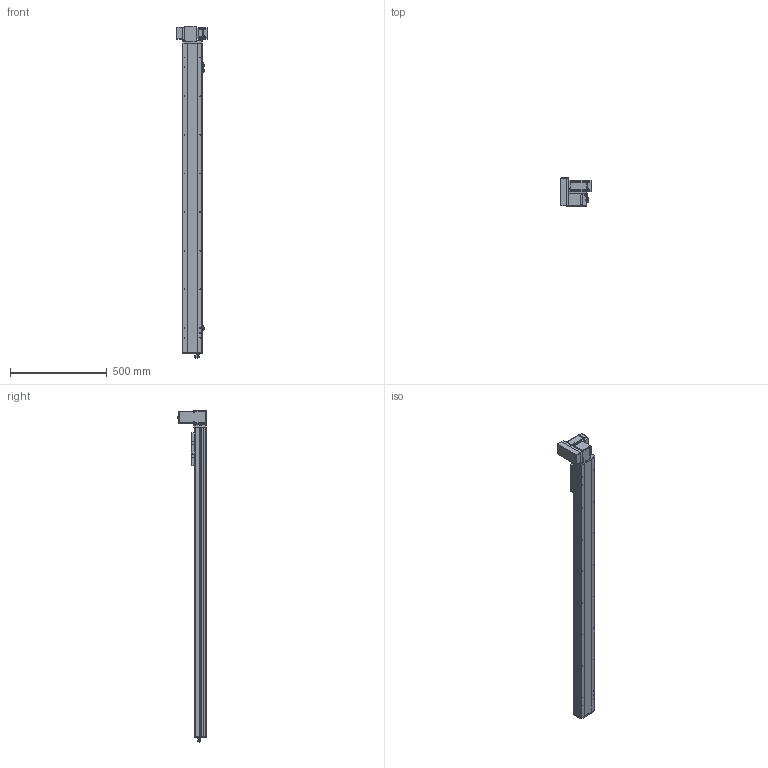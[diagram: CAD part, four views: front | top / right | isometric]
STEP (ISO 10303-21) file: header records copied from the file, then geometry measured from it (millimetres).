
FILE_DESCRIPTION (( 'STEP AP214' ), '1' );
FILE_NAME ('TPE10-L41.6-1350-LU-P20-C4.STEP', '2023-03-13T01:33:34', ( '' ), ( '' ), 'SwSTEP 2.0', 'SolidWorks 2020', '' );
FILE_SCHEMA (( 'AUTOMOTIVE_DESIGN' ));
Length unit declared in the file: millimetre
Products named in the file (16): hexagon socket head cap screws gb_GB_FASTENER_SCREWS_HSHCS M3X6-N; 葩璃 TPE10-007 々湍釱MZ-169x88^TPE10-L41.6-LU-P20-C4; 葩璃 TPF10-L-008 耜醱啣^TPE10-L41.6-LU-P20-C4; 葩璃 侂狟100W^TPE10-L41.6-LU-P20-C4; 葩璃 TPF10 詩湍揤啣 TPF10 12^TPE10-L41.6-LU-P20-C4; 葩璃 TPT10-L-009 萇儂啣^TPE10-L41.6-LU-P20-C4_200W; 葩璃 PL8-02^TPE10-L41.6-LU-P20-C4; 葩璃 TPE10-L-001 菁釱MZ-102A-01^TPE10-L41.6-LU-P20-C4; hex nuts, style 1-grades ab gb_GB_FASTENER_NUT_SNAB1 M3-N; 葩璃 詩湍75^TPE10-L41.6-LU-P20-C4; 葩璃 TPE10-L-002 耜裔ZTMT-102B-04^TPE10-L41.6-LU-P20-C4; hexagon head bolts-full thread gb_GB_FASTENER_BOLT_STBAB A M5X16-N; 葩璃 TPE10 賑雄殤 TPE10^TPE10-L41.6-LU-P20-C4; 葩璃 pm-t65-672^TPE10-L41.6-LU-P20-C4; 葩璃 侂狟400W^TPE10-L41.6-LU-P20-C4; TPE10-L41.6-1350-LU-P20-C4
Assembly tree (29 placements, depth 2):
  TPE10-L41.6-1350-LU-P20-C4
    葩璃 TPE10-L-001 菁釱MZ-102A-01^TPE10-L41.6-LU-P20-C4
    葩璃 TPE10-L-002 耜裔ZTMT-102B-04^TPE10-L41.6-LU-P20-C4  x2
    葩璃 詩湍75^TPE10-L41.6-LU-P20-C4
    葩璃 TPE10-007 々湍釱MZ-169x88^TPE10-L41.6-LU-P20-C4
    葩璃 TPF10-L-008 耜醱啣^TPE10-L41.6-LU-P20-C4
    葩璃 TPE10 賑雄殤 TPE10^TPE10-L41.6-LU-P20-C4
    葩璃 TPF10 詩湍揤啣 TPF10 12^TPE10-L41.6-LU-P20-C4  x2
    葩璃 TPT10-L-009 萇儂啣^TPE10-L41.6-LU-P20-C4_200W
    葩璃 pm-t65-672^TPE10-L41.6-LU-P20-C4  x3
    葩璃 PL8-02^TPE10-L41.6-LU-P20-C4
    葩璃 侂狟100W^TPE10-L41.6-LU-P20-C4
    葩璃 侂狟400W^TPE10-L41.6-LU-P20-C4
    hexagon socket head cap screws gb_GB_FASTENER_SCREWS_HSHCS M3X6-N  x6
    hex nuts, style 1-grades ab gb_GB_FASTENER_NUT_SNAB1 M3-N  x6
    hexagon head bolts-full thread gb_GB_FASTENER_BOLT_STBAB A M5X16-N
Bounding box: 162.5 x 149.65 x 1718.35 mm (x, y, z)
Volume: 5708415.2 mm3; surface area: 1402991.6 mm2
Topology: 37 solids, 37 shells, 2053 faces, 5261 edges, 3334 vertices
Faces by surface type: plane 1106, cylinder 649, cone 228, bspline 42, torus 26, sphere 2
Entity records: 51468 total; most frequent: CARTESIAN_POINT 10588, DIRECTION 8264, ORIENTED_EDGE 7938, EDGE_CURVE 3969, AXIS2_PLACEMENT_3D 2908, VERTEX_POINT 2561, VECTOR 2448, LINE 2448
